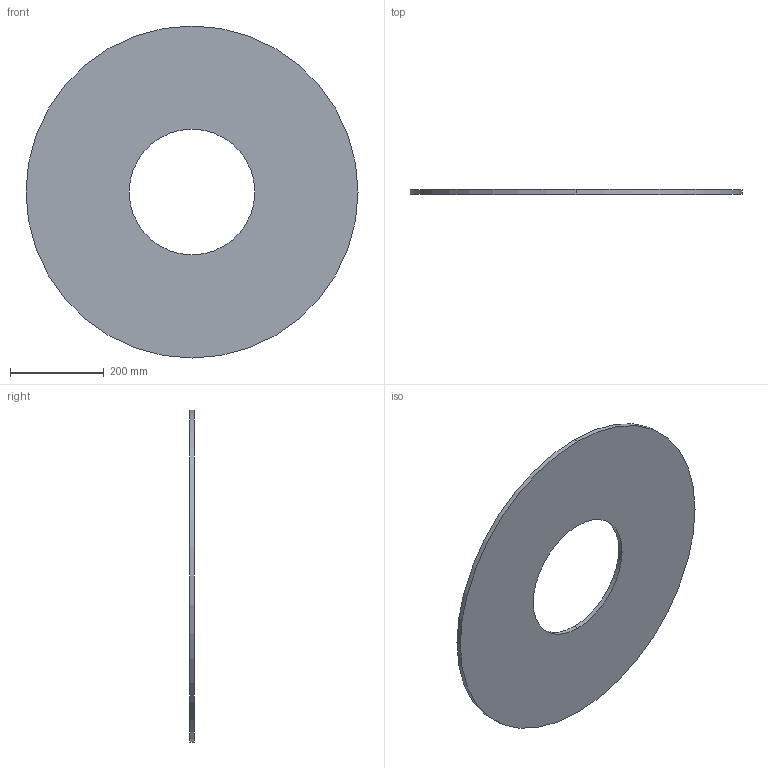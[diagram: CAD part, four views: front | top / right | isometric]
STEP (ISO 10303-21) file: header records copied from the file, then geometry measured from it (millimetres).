
FILE_DESCRIPTION (( 'STEP AP203' ), '1' );
FILE_NAME ('3D_R152_DN219.1_17305295.STEP', '2024-08-13T08:00:41', ( '' ), ( '' ), 'SwSTEP 2.0', 'SolidWorks 2024', '' );
FILE_SCHEMA (( 'CONFIG_CONTROL_DESIGN' ));
Length unit declared in the file: millimetre
Products named in the file (1): 3D_R152_DN219.1_17305295
Bounding box: 708.2 x 10 x 708.2 mm (x, y, z)
Volume: 3375038.4 mm3; surface area: 705675.9 mm2
Topology: 1 solids, 1 shells, 6 faces, 12 edges, 8 vertices
Faces by surface type: cylinder 4, plane 2
Entity records: 245 total; most frequent: DIRECTION 34, CARTESIAN_POINT 27, ORIENTED_EDGE 24, AXIS2_PLACEMENT_3D 15, EDGE_CURVE 12, EDGE_LOOP 8, PERSON_AND_ORGANIZATION 8, CIRCLE 8
